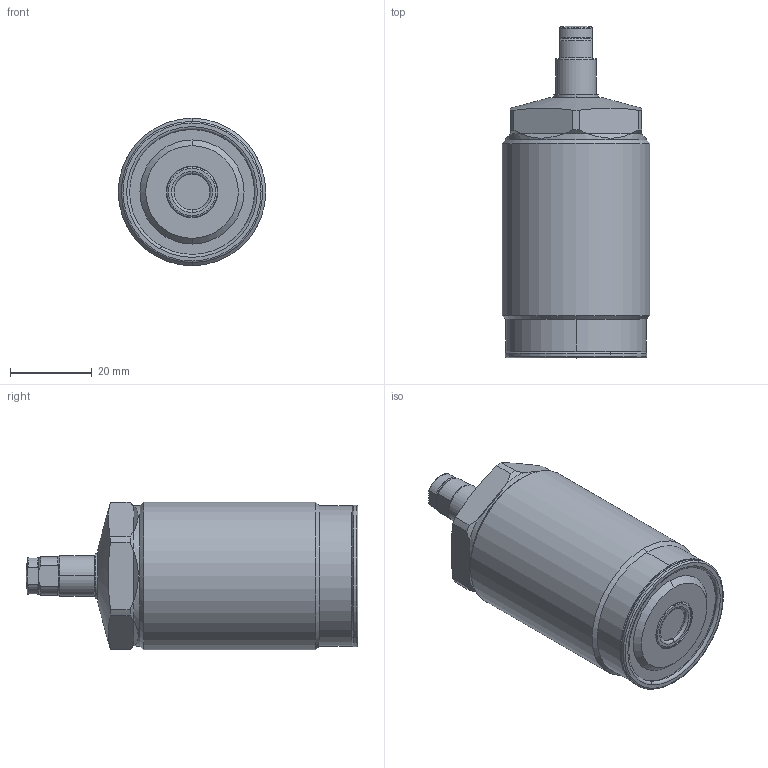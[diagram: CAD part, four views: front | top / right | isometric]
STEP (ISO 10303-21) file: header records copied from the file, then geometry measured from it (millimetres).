
FILE_DESCRIPTION(/* description */ (''),/* implementation_level */ '2;1');
FILE_NAME(/* name */ 'TNE36.stp',/* time_stamp */ '2025-01-09T15:17:20+08:00',/* author */ (''),/* organization */ (''),/* preprocessor_version */ 'ST-DEVELOPER v16.7',/* originating_system */ 'SIEMENS PLM Software NX 12.0',/* authorisation */ '');
FILE_SCHEMA (('AUTOMOTIVE_DESIGN { 1 0 10303 214 3 1 1 1 }'));
Length unit declared in the file: millimetre
Products named in the file (6): TNE36-01956; TNE36-03; TNE36-05; TNE36-02; TNE36-04; TNE36_stp
Assembly tree (5 placements, depth 2):
  TNE36_stp
    TNE36-04
    TNE36-02
    TNE36-05
    TNE36-03
    TNE36-01956
Bounding box: 36 x 81 x 36 mm (x, y, z)
Volume: 61628.5 mm3; surface area: 10518.9 mm2
Topology: 5 solids, 5 shells, 136 faces, 297 edges, 178 vertices
Faces by surface type: cylinder 40, torus 34, plane 34, cone 26, sphere 2
Full cylindrical faces by diameter (mm): 34.2 x1, 36 x1
Entity records: 4030 total; most frequent: CARTESIAN_POINT 831, DIRECTION 724, ORIENTED_EDGE 586, AXIS2_PLACEMENT_3D 323, EDGE_CURVE 293, VERTEX_POINT 178, CIRCLE 175, EDGE_LOOP 153
